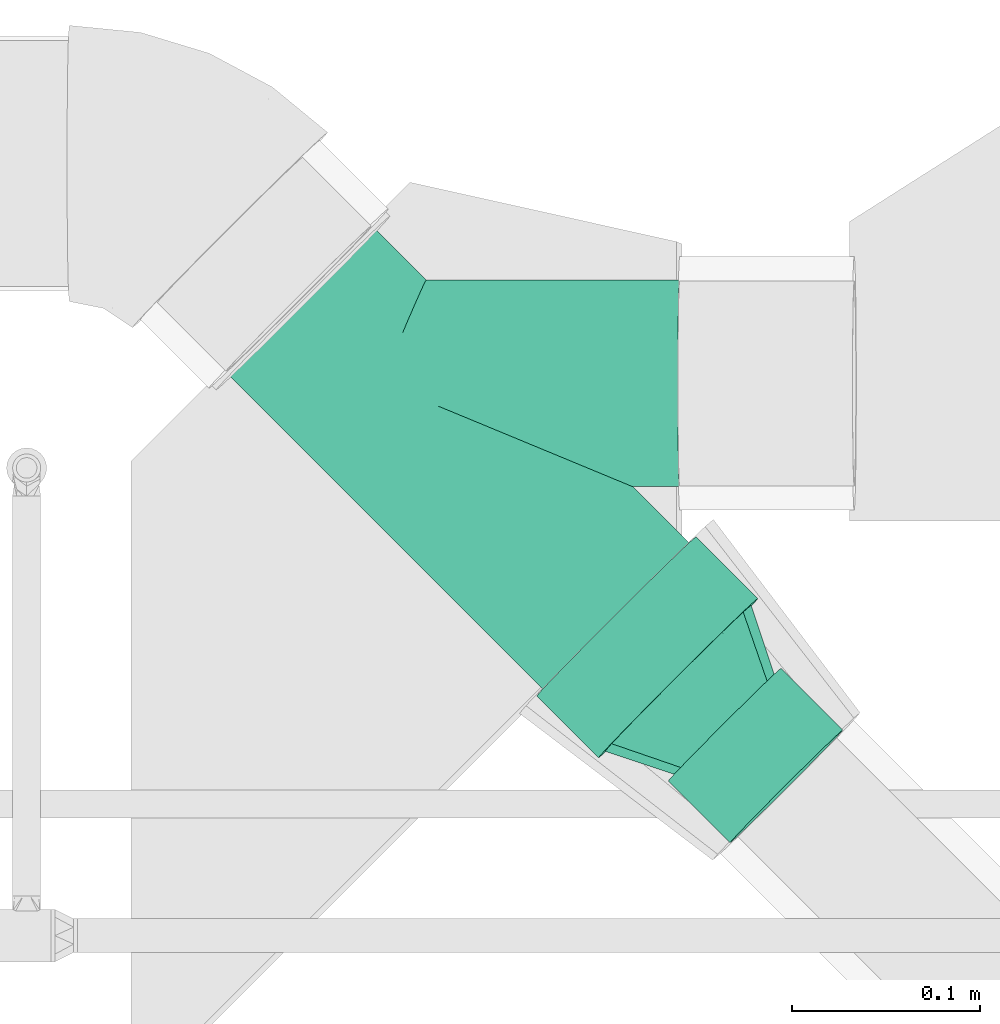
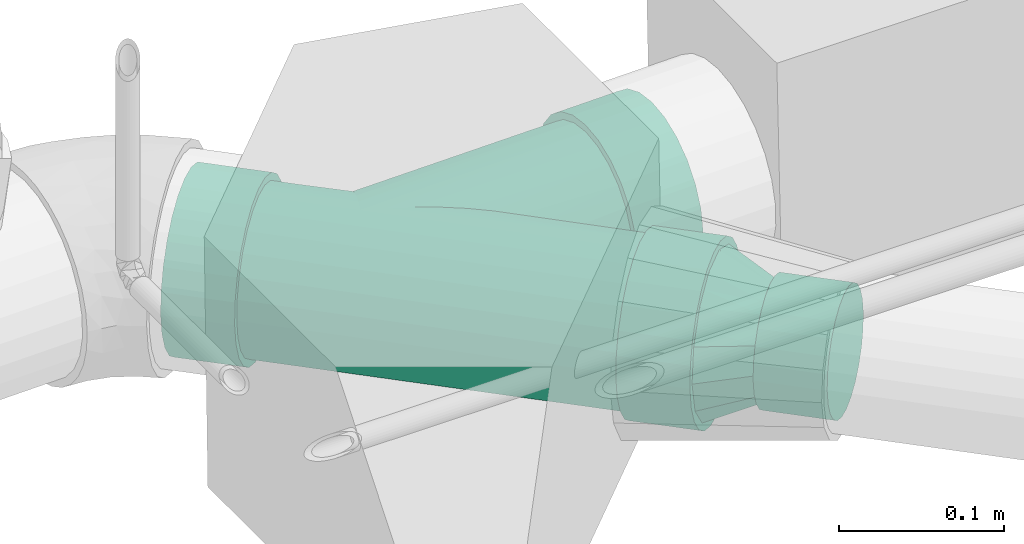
# One storey, part 126 of 156: 2 flow fittings.
"""IFC2X3 building model written with IfcOpenShell, lengths in millimetres."""

from ifc_helpers import new_model, entity, si_unit, converted_unit, derived_unit, direction, frame, origin_with_axes, place, context, subcontext, project, spatial, open_shell, surface_model, source, transform, mapped, type_object, element, save


model = new_model("IFC2X3")

# Units and contexts
model_context = context("Model", 3, precision=0.01, world=frame((0.0, 4.29681676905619e-09, 0.0)), true_north=direction((4.01073788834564e-13, 1.0)))
plan_context = context("Plan", 3, precision=0.01, world=frame((0.0, 4.29681676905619e-09, 0.0)), true_north=direction((4.01073788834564e-13, 1.0)))
body_context = subcontext(model_context, "Body", "Model", "MODEL_VIEW")
ifc_project = project(units=[converted_unit("PLANEANGLEUNIT", "DEGREE", entity("IfcPositiveLengthMeasure", 0.0174532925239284), si_unit("PLANEANGLEUNIT", "RADIAN"), dimensions=[0, 0, 0, 0, 0, 0, 0]), si_unit("AREAUNIT", "SQUARE_METRE"), si_unit("LENGTHUNIT", "METRE", prefix="MILLI"), si_unit("MASSUNIT", "GRAM", prefix="KILO"), si_unit("POWERUNIT", "WATT"), si_unit("PRESSUREUNIT", "PASCAL", prefix="KILO"), si_unit("FORCEUNIT", "NEWTON", prefix="KILO"), si_unit("ELECTRICVOLTAGEUNIT", "VOLT"), si_unit("ELECTRICCURRENTUNIT", "AMPERE"), si_unit("THERMODYNAMICTEMPERATUREUNIT", "DEGREE_CELSIUS"), si_unit("TIMEUNIT", "SECOND"), si_unit("VOLUMEUNIT", "CUBIC_METRE"), derived_unit("LINEARVELOCITYUNIT", [(si_unit("LENGTHUNIT", "METRE"), 1), (si_unit("TIMEUNIT", "SECOND"), -1)]), derived_unit("VOLUMETRICFLOWRATEUNIT", [(si_unit("VOLUMEUNIT", "CUBIC_METRE"), 1), (si_unit("TIMEUNIT", "SECOND"), -1)]), derived_unit("THERMALTRANSMITTANCEUNIT", [(si_unit("POWERUNIT", "WATT"), 1), (si_unit("THERMODYNAMICTEMPERATUREUNIT", "KELVIN"), -1), (si_unit("AREAUNIT", "SQUARE_METRE"), -1)]), derived_unit("SOUNDPRESSUREUNIT", [(si_unit("PRESSUREUNIT", "PASCAL"), 1)])], contexts=[model_context, plan_context])

# Site, building, storey
site_placement = place(None, frame((0.0, -4.29681676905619e-09, 0.0), z_axis=(0.0, 0.0, 1.0), x_axis=(1.0, 0.0, 0.0)))
site = spatial("IfcSite", under=ifc_project, at=site_placement, CompositionType="ELEMENT")
building_placement = place(site_placement, frame((0.0, 4.29681676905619e-09, 0.0), z_axis=(0.0, 0.0, 1.0), x_axis=(1.0, 0.0, 0.0)))
building = spatial("IfcBuilding", under=site, at=building_placement, Name="mc-building", CompositionType="ELEMENT")
storey_placement = place(building_placement, frame((0.0, 0.0, 205200.0), z_axis=(0.0, 0.0, 1.0), x_axis=(1.0, 0.0, 0.0)))
storey = spatial("IfcBuildingStorey", under=building, at=storey_placement, Name="Nivå D + 1,2 m", CompositionType="ELEMENT", Elevation=205200.0)

# Flow fittings
pipe_fitting_type_1 = type_object("IfcPipeFittingType", Name="magi_sewer_tee_wye_NOR", PredefinedType="JUNCTION")
shared_shape_1 = source(origin_with_axes(), body_context, "Body", "SurfaceModel", [
    surface_model("IfcShellBasedSurfaceModel", [(-110.38642, -30.0, -51.96152), (-110.38642, 42.42641, -42.42641), (-110.38642, -15.52914, -57.95555), (-110.38642, -51.96152, -30.0), (-110.38642, -42.42641, -42.42641), (-110.38642, -57.95555, -15.52914), (-110.38642, -60.0, 0.0), (-110.38642, 0.0, -60.0), (-110.38642, 30.0, -51.96152), (-110.38642, 15.52914, -57.95555), (-110.38642, -57.95555, 15.52914), (-110.38642, 51.96152, -30.0), (-110.38642, 60.0, 0.0), (-110.38642, 57.95555, -15.52914), (-110.38642, -51.96152, 30.0), (-110.38642, -42.42641, 42.42641), (-110.38642, -15.52914, 57.95555), (-110.38642, 0.0, 60.0), (-110.38642, -30.0, 51.96152), (-110.38642, 51.96152, 30.0), (-110.38642, 57.95555, 15.52914), (-110.38642, 30.0, 51.96152), (-110.38642, 42.42641, 42.42641), (-110.38642, 15.52914, 57.95555), (-63.88642, -42.42641, 42.42641), (-63.88642, 0.0, 60.0), (-63.88642, -15.52914, 57.95555), (-63.88642, -30.0, 51.96152), (-63.88642, -51.96152, 30.0), (-63.88642, -57.95555, 15.52914), (-63.88642, 60.0, 0.0), (-63.88642, 30.0, 51.96152), (-63.88642, 51.96152, 30.0), (-63.88642, 42.42641, 42.42641), (-63.88642, 15.52914, 57.95555), (-63.88642, 57.95555, 15.52914), (-63.88642, 51.96152, -30.0), (-63.88642, 42.42641, -42.42641), (-63.88642, -57.95555, -15.52914), (-63.88642, -42.42641, -42.42641), (-63.88642, -51.96152, -30.0), (-63.88642, -30.0, -51.96152), (-63.88642, -15.52914, -57.95555), (-63.88642, 57.95555, -15.52914), (-63.88642, 30.0, -51.96152), (-63.88642, 0.0, -60.0), (-63.88642, 15.52914, -57.95555), (-63.88642, -60.0, 0.0), (-63.88642, 0.0, 55.0), (-63.88642, 14.23505, 53.12592), (-63.88642, 27.5, 47.63139), (-63.88642, -47.63139, 27.5), (-63.88642, 27.5, -47.63139), (-63.88642, 47.63139, 27.5), (-63.88642, 38.89087, 38.89087), (-63.88642, -27.5, 47.63139), (-63.88642, -14.23505, 53.12592), (-63.88642, -38.89087, 38.89087), (-63.88642, -55.0, 0.0), (-63.88642, -53.12592, 14.23505), (-63.88642, -47.63139, -27.5), (-63.88642, 53.12592, -14.23505), (-63.88642, 53.12592, 14.23505), (-63.88642, 47.63139, -27.5), (-63.88642, -27.5, -47.63139), (-63.88642, 38.89087, -38.89087), (-63.88642, 0.0, -55.0), (-63.88642, 14.23505, -53.12592), (-63.88642, -38.89087, -38.89087), (-63.88642, -53.12592, -14.23505), (-63.88642, -14.23505, -53.12592), (-63.88642, 55.0, 0.0), (-21.8501, -52.75936, -14.72433), (-63.88642, -53.59444, -10.67629), (-20.40842, -49.27826, -23.92697), (-63.88642, -50.37866, -20.86752), (-63.88642, -49.00503, -24.18376), (-63.88642, -54.53148, -3.55876), (-63.88642, -54.06296, -7.11752), (-22.59041, -54.54691, -4.97138), (-22.40277, -54.09382, -9.94276), (-63.88642, -20.86752, -50.37866), (-7.52165, -18.16183, -51.91481), (-9.28617, -22.42246, -50.0043), (-19.51939, -47.13162, -28.34803), (-17.15243, -41.41635, -36.18958), (-63.88642, -43.26114, -33.19544), (-63.88642, -33.19544, -43.26114), (-11.0507, -26.68309, -48.09379), (-18.33591, -44.27398, -32.26881), (-15.72375, -37.96663, -39.50497), (-14.29506, -34.51692, -42.82035), (-21.29744, -51.42489, -19.50591), (-3.80652, -9.19124, -54.22657), (-63.88642, -7.11752, -54.06296), (-22.77806, -55.0, 0.0), (0.0, 0.0, -55.0), (-63.88642, -50.37866, 20.86752), (-21.29744, -51.42489, 19.50591), (-20.40842, -49.27826, 23.92697), (-22.59041, -54.54691, 4.97138), (-63.88642, -54.06296, 7.11752), (-63.88642, -54.53148, 3.55876), (-63.88642, -7.11752, 54.06296), (-3.80652, -9.19124, 54.22657), (0.0, 0.0, 55.0), (-7.52165, -18.16183, 51.91481), (-63.88642, -20.86752, 50.37866), (-11.0507, -26.68309, 48.09379), (-9.28617, -22.42246, 50.0043), (-19.51939, -47.13162, 28.34803), (-18.33591, -44.27398, 32.26881), (-63.88642, -43.26114, 33.19544), (-17.15243, -41.41635, 36.18958), (-63.88642, -49.00503, 24.18376), (-21.8501, -52.75936, 14.72433), (-22.40277, -54.09382, 9.94276), (-63.88642, -33.19544, 43.26114), (-63.88642, -53.59444, 10.67629), (-15.72375, -37.96663, 39.50497), (221.98298, 30.0, -51.96152), (221.98298, -42.42641, -42.42641), (221.98298, 15.52914, -57.95555), (221.98298, 51.96152, -30.0), (221.98298, 42.42641, -42.42641), (221.98298, 57.95555, -15.52914), (221.98298, 60.0, 0.0), (221.98298, 0.0, -60.0), (221.98298, -30.0, -51.96152), (221.98298, -15.52914, -57.95555), (221.98298, 57.95555, 15.52914), (221.98298, -51.96152, -30.0), (221.98298, -60.0, 0.0), (221.98298, -57.95555, -15.52914), (221.98298, 51.96152, 30.0), (221.98298, 42.42641, 42.42641), (221.98298, 15.52914, 57.95555), (221.98298, 0.0, 60.0), (221.98298, 30.0, 51.96152), (221.98298, -51.96152, 30.0), (221.98298, -57.95555, 15.52914), (221.98298, -30.0, 51.96152), (221.98298, -42.42641, 42.42641), (221.98298, -15.52914, 57.95555), (175.48298, 42.42641, 42.42641), (175.48298, 0.0, 60.0), (175.48298, 15.52914, 57.95555), (175.48298, 30.0, 51.96152), (175.48298, 51.96152, 30.0), (175.48298, 57.95555, 15.52914), (175.48298, -60.0, 0.0), (175.48298, -30.0, 51.96152), (175.48298, -51.96152, 30.0), (175.48298, -42.42641, 42.42641), (175.48298, -15.52914, 57.95555), (175.48298, -57.95555, 15.52914), (175.48298, -51.96152, -30.0), (175.48298, -42.42641, -42.42641), (175.48298, 57.95555, -15.52914), (175.48298, 42.42641, -42.42641), (175.48298, 51.96152, -30.0), (175.48298, 30.0, -51.96152), (175.48298, 15.52914, -57.95555), (175.48298, -57.95555, -15.52914), (175.48298, -30.0, -51.96152), (175.48298, 0.0, -60.0), (175.48298, -15.52914, -57.95555), (175.48298, 60.0, 0.0), (122.57608, -100.58895, -57.95555), (111.59657, -111.57098, -60.0), (152.57263, -70.58551, -15.52914), (132.80735, -90.35534, -51.96152), (148.3347, -74.82442, -30.0), (141.59313, -81.56753, -42.42641), (70.62051, -152.55644, -15.52914), (81.60002, -141.57442, -42.42641), (90.3858, -132.78661, -51.96152), (100.61707, -122.55299, -57.95555), (74.85844, -148.31754, -30.0), (69.17503, -154.00225, 0.0), (154.01811, -69.1397, 0.0), (152.57263, -70.58551, 15.52914), (132.80735, -90.35534, 51.96152), (148.3347, -74.82442, 30.0), (81.60002, -141.57442, 42.42641), (141.59313, -81.56753, 42.42641), (122.57608, -100.58895, 57.95555), (111.59657, -111.57098, 60.0), (74.85844, -148.31754, 30.0), (70.62051, -152.55644, 15.52914), (90.3858, -132.78661, 51.96152), (100.61707, -122.55299, 57.95555), (174.47736, -114.44423, -42.42641), (144.48081, -144.44767, -60.0), (155.46031, -133.46565, -57.95555), (165.69158, -123.23203, -51.96152), (181.21893, -107.70111, -30.0), (123.27004, -165.66331, -51.96152), (185.45687, -103.46221, 15.52914), (107.74268, -181.19423, -30.0), (114.48425, -174.45111, -42.42641), (133.50131, -155.42968, -57.95555), (103.50475, -185.43314, -15.52914), (103.50475, -185.43314, 15.52914), (102.05927, -186.87895, 0.0), (185.45687, -103.46221, -15.52914), (174.47736, -114.44423, 42.42641), (181.21893, -107.70111, 30.0), (165.69158, -123.23203, 51.96152), (155.46031, -133.46565, 57.95555), (107.74268, -181.19423, 30.0), (123.27004, -165.66331, 51.96152), (114.48425, -174.45111, 42.42641), (144.48081, -144.44767, 60.0), (133.50131, -155.42968, 57.95555), (186.90235, -102.01639, 0.0), (175.48298, 27.5, -47.63139), (175.48298, 0.0, -55.0), (175.48298, 14.23505, -53.12592), (175.48298, 47.63139, -27.5), (175.48298, 38.89087, -38.89087), (175.48298, -55.0, 0.0), (175.48298, -27.5, -47.63139), (175.48298, 53.12592, -14.23505), (175.48298, -14.23505, -53.12592), (175.48298, -47.63139, -27.5), (175.48298, -38.89087, -38.89087), (175.48298, -53.12592, -14.23505), (175.48298, -47.63139, 27.5), (175.48298, 55.0, 0.0), (175.48298, 47.63139, 27.5), (175.48298, 27.5, 47.63139), (175.48298, 38.89087, 38.89087), (175.48298, 14.23505, 53.12592), (175.48298, 0.0, 55.0), (175.48298, -53.12592, 14.23505), (175.48298, -27.5, 47.63139), (175.48298, -38.89087, 38.89087), (175.48298, -14.23505, 53.12592), (175.48298, 53.12592, 14.23505), (130.22674, -53.93294, -7.58616), (175.48298, -54.06296, -7.11752), (127.65021, -52.86587, -15.17233), (116.60906, -48.29322, -26.32043), (132.80329, -55.0, 0.0), (103.48158, -42.85652, -34.472), (175.48298, -43.26114, -33.19544), (74.97147, -31.04916, -45.39768), (60.20704, -24.93453, -49.02315), (89.4615, -37.05015, -40.64832), (30.2333, -12.52101, -53.55581), (15.13095, -6.26643, -54.64185), (45.27391, -18.75003, -51.70528), (30.2333, -12.52101, 53.55581), (60.20704, -24.93453, 49.02315), (-14.29505, -34.51692, 42.82035), (89.4615, -37.05015, 40.64832), (103.03528, -42.67169, 33.48438), (175.48298, -43.26114, 33.19544), (116.60906, -48.29322, 26.32043), (124.70617, -51.64661, 13.16021), (139.09342, -84.06782, -38.89087), (111.59657, -111.57098, -55.0), (121.66112, -101.50412, -53.12592), (131.03978, -92.12331, -47.63139), (145.27319, -77.88662, -27.5), (149.15796, -74.00097, -14.23505), (74.03518, -149.14098, -14.23505), (74.03518, -149.14098, 14.23505), (92.15337, -131.01864, -47.63139), (77.91995, -145.25532, -27.5), (84.09973, -139.07413, -38.89087), (101.53203, -121.63782, -53.12592), (72.71016, -150.46631, 0.0), (150.48298, -72.67564, 0.0), (149.15796, -74.00097, 14.23505), (145.27319, -77.88662, 27.5), (139.09342, -84.06782, 38.89087), (131.03978, -92.12331, 47.63139), (92.15337, -131.01864, 47.63139), (111.59657, -111.57098, 55.0), (121.66112, -101.50412, 53.12592), (77.91995, -145.25532, 27.5), (84.09973, -139.07413, 38.89087), (101.53203, -121.63782, 53.12592), (149.82047, -73.33831, -7.11752), (142.18331, -80.97722, -33.19544)], [open_shell([[[0, 1, 2]], [[3, 0, 4]], [[5, 6, 0]], [[5, 0, 3]], [[1, 0, 6]], [[7, 8, 9]], [[8, 7, 1]], [[2, 1, 7]], [[1, 10, 11]], [[11, 12, 13]], [[10, 1, 6]], [[10, 14, 15]], [[12, 10, 15]], [[16, 17, 15]], [[16, 15, 18]], [[19, 15, 17]], [[12, 19, 20]], [[12, 15, 19]], [[19, 21, 22]], [[19, 17, 21]], [[23, 21, 17]], [[10, 12, 11]], [[24, 25, 26]], [[24, 26, 27]], [[24, 28, 29]], [[25, 24, 30]], [[30, 24, 29]], [[31, 32, 33]], [[31, 34, 25]], [[32, 30, 35]], [[31, 25, 32]], [[25, 30, 32]], [[29, 36, 30]], [[37, 29, 38]], [[39, 38, 40]], [[41, 42, 38]], [[41, 38, 39]], [[37, 38, 42]], [[37, 36, 29]], [[43, 30, 36]], [[44, 45, 46]], [[45, 44, 37]], [[45, 37, 42]], [[47, 38, 29]], [[43, 13, 30]], [[36, 11, 43]], [[8, 37, 44]], [[36, 37, 1]], [[9, 44, 46]], [[43, 11, 13]], [[13, 12, 30]], [[9, 8, 44]], [[1, 37, 8]], [[1, 11, 36]], [[7, 9, 46]], [[46, 45, 7]], [[2, 42, 41]], [[39, 0, 41]], [[3, 40, 38]], [[39, 40, 4]], [[5, 38, 47]], [[42, 2, 45]], [[41, 0, 2]], [[45, 2, 7]], [[39, 4, 0]], [[40, 3, 4]], [[5, 3, 38]], [[47, 6, 5]], [[29, 10, 47]], [[28, 14, 29]], [[18, 24, 27]], [[28, 24, 15]], [[16, 27, 26]], [[29, 14, 10]], [[10, 6, 47]], [[18, 27, 16]], [[15, 24, 18]], [[15, 14, 28]], [[16, 25, 17]], [[16, 26, 25]], [[23, 34, 31]], [[33, 21, 31]], [[19, 32, 35]], [[33, 32, 22]], [[20, 35, 30]], [[34, 23, 25]], [[31, 21, 23]], [[25, 23, 17]], [[33, 22, 21]], [[32, 19, 22]], [[20, 19, 35]], [[30, 12, 20]], [[48, 49, 50]], [[51, 48, 50]], [[52, 51, 50]], [[53, 50, 54]], [[53, 52, 50]], [[48, 55, 56]], [[48, 57, 55]], [[51, 58, 59]], [[57, 48, 51]], [[51, 60, 58]], [[61, 53, 62]], [[61, 63, 53]], [[53, 63, 52]], [[51, 52, 64]], [[52, 63, 65]], [[66, 52, 67]], [[60, 64, 68]], [[69, 58, 60]], [[64, 66, 70]], [[60, 51, 64]], [[66, 64, 52]], [[62, 71, 61]], [[69, 72, 73]], [[74, 75, 76]], [[77, 78, 79]], [[80, 73, 72]], [[81, 82, 83]], [[84, 74, 60]], [[85, 86, 68]], [[87, 64, 88]], [[60, 86, 89]], [[90, 85, 68]], [[60, 74, 76]], [[88, 91, 87]], [[74, 92, 75]], [[93, 70, 94]], [[86, 85, 89]], [[95, 77, 79]], [[64, 83, 88]], [[80, 78, 73]], [[60, 89, 84]], [[78, 80, 79]], [[91, 68, 87]], [[83, 64, 81]], [[66, 96, 94]], [[68, 91, 90]], [[93, 82, 70]], [[93, 94, 96]], [[66, 67, 96]], [[92, 69, 75]], [[69, 92, 72]], [[77, 95, 58]], [[82, 81, 70]], [[97, 98, 99]], [[100, 101, 102]], [[103, 56, 104]], [[49, 48, 105]], [[104, 56, 106]], [[106, 56, 107]], [[108, 109, 55]], [[103, 105, 48]], [[55, 109, 107]], [[95, 102, 58]], [[105, 103, 104]], [[110, 111, 51]], [[112, 111, 113]], [[99, 114, 97]], [[100, 102, 95]], [[115, 98, 59]], [[116, 101, 100]], [[99, 51, 114]], [[59, 98, 97]], [[51, 111, 112]], [[51, 99, 110]], [[108, 55, 117]], [[116, 118, 101]], [[118, 115, 59]], [[113, 57, 112]], [[57, 113, 119]], [[115, 118, 116]], [[106, 107, 109]], [[120, 121, 122]], [[123, 120, 124]], [[125, 126, 120]], [[125, 120, 123]], [[121, 120, 126]], [[127, 128, 129]], [[128, 127, 121]], [[122, 121, 127]], [[121, 130, 131]], [[131, 132, 133]], [[130, 121, 126]], [[130, 134, 135]], [[132, 130, 135]], [[136, 137, 135]], [[136, 135, 138]], [[139, 135, 137]], [[132, 139, 140]], [[132, 135, 139]], [[139, 141, 142]], [[139, 137, 141]], [[143, 141, 137]], [[130, 132, 131]], [[144, 145, 146]], [[144, 146, 147]], [[144, 148, 149]], [[145, 144, 150]], [[150, 144, 149]], [[151, 152, 153]], [[151, 154, 145]], [[152, 150, 155]], [[151, 145, 152]], [[145, 150, 152]], [[149, 156, 150]], [[157, 149, 158]], [[159, 158, 160]], [[161, 162, 158]], [[161, 158, 159]], [[157, 158, 162]], [[157, 156, 149]], [[163, 150, 156]], [[164, 165, 166]], [[165, 164, 157]], [[165, 157, 162]], [[167, 158, 149]], [[163, 133, 150]], [[156, 131, 163]], [[128, 157, 164]], [[156, 157, 121]], [[129, 164, 166]], [[163, 131, 133]], [[133, 132, 150]], [[129, 128, 164]], [[121, 157, 128]], [[121, 131, 156]], [[127, 129, 166]], [[166, 165, 127]], [[122, 162, 161]], [[159, 120, 161]], [[123, 160, 158]], [[159, 160, 124]], [[125, 158, 167]], [[162, 122, 165]], [[161, 120, 122]], [[165, 122, 127]], [[159, 124, 120]], [[160, 123, 124]], [[125, 123, 158]], [[167, 126, 125]], [[149, 130, 167]], [[148, 134, 149]], [[138, 144, 147]], [[148, 144, 135]], [[136, 147, 146]], [[149, 134, 130]], [[130, 126, 167]], [[138, 147, 136]], [[135, 144, 138]], [[135, 134, 148]], [[136, 145, 137]], [[136, 146, 145]], [[143, 154, 151]], [[153, 141, 151]], [[139, 152, 155]], [[153, 152, 142]], [[140, 155, 150]], [[154, 143, 145]], [[151, 141, 143]], [[145, 143, 137]], [[153, 142, 141]], [[152, 139, 142]], [[140, 139, 155]], [[150, 132, 140]], [[168, 169, 170]], [[171, 168, 170]], [[170, 172, 173]], [[171, 170, 173]], [[174, 170, 169]], [[175, 174, 176]], [[177, 176, 174]], [[178, 174, 175]], [[174, 169, 177]], [[174, 179, 170]], [[179, 180, 170]], [[181, 180, 182]], [[183, 181, 182]], [[184, 182, 180]], [[185, 183, 182]], [[186, 182, 187]], [[188, 184, 189]], [[184, 180, 189]], [[190, 191, 184]], [[184, 191, 182]], [[191, 187, 182]], [[179, 189, 180]], [[192, 193, 194]], [[192, 194, 195]], [[193, 196, 197]], [[196, 193, 192]], [[198, 197, 196]], [[197, 199, 200]], [[197, 201, 193]], [[197, 202, 199]], [[197, 203, 202]], [[202, 203, 204]], [[205, 198, 196]], [[203, 197, 198]], [[206, 198, 207]], [[198, 208, 203]], [[208, 198, 206]], [[209, 203, 208]], [[210, 211, 212]], [[211, 210, 203]], [[211, 213, 214]], [[211, 203, 209]], [[209, 213, 211]], [[198, 205, 215]], [[203, 179, 204]], [[210, 189, 203]], [[184, 212, 211]], [[210, 212, 188]], [[190, 211, 214]], [[210, 188, 189]], [[189, 179, 203]], [[191, 213, 187]], [[191, 190, 214]], [[184, 211, 190]], [[184, 188, 212]], [[213, 191, 214]], [[182, 209, 208]], [[206, 185, 208]], [[181, 207, 198]], [[206, 207, 183]], [[180, 198, 215]], [[209, 186, 187]], [[209, 182, 186]], [[208, 185, 182]], [[206, 183, 185]], [[181, 183, 207]], [[198, 180, 181]], [[209, 187, 213]], [[205, 180, 215]], [[196, 170, 205]], [[173, 192, 195]], [[196, 192, 172]], [[171, 195, 194]], [[196, 172, 170]], [[170, 180, 205]], [[168, 193, 169]], [[168, 171, 194]], [[173, 195, 171]], [[173, 172, 192]], [[193, 168, 194]], [[176, 201, 197]], [[200, 175, 197]], [[174, 199, 202]], [[200, 199, 178]], [[179, 202, 204]], [[177, 169, 201]], [[177, 201, 176]], [[197, 175, 176]], [[200, 178, 175]], [[174, 178, 199]], [[202, 179, 174]], [[201, 169, 193]], [[216, 217, 218]], [[219, 216, 220]], [[221, 222, 216]], [[223, 216, 219]], [[216, 223, 221]], [[217, 222, 224]], [[217, 216, 222]], [[222, 225, 226]], [[225, 222, 221]], [[221, 227, 225]], [[228, 223, 229]], [[228, 229, 230]], [[231, 230, 232]], [[231, 233, 234]], [[230, 231, 228]], [[234, 228, 231]], [[221, 228, 235]], [[223, 228, 221]], [[234, 236, 237]], [[237, 228, 234]], [[236, 234, 238]], [[229, 239, 230]], [[240, 227, 241]], [[242, 243, 225]], [[240, 242, 227]], [[241, 244, 240]], [[227, 242, 225]], [[245, 246, 243]], [[222, 247, 248]], [[249, 247, 222]], [[249, 226, 245]], [[226, 249, 222]], [[246, 225, 243]], [[245, 226, 246]], [[220, 65, 63]], [[219, 63, 61]], [[218, 67, 52]], [[216, 52, 65]], [[218, 96, 67]], [[223, 61, 71]], [[250, 251, 224]], [[252, 250, 224]], [[252, 224, 248]], [[224, 251, 217]], [[248, 224, 222]], [[96, 217, 251]], [[244, 241, 221]], [[218, 217, 96]], [[216, 218, 52]], [[216, 65, 220]], [[219, 220, 63]], [[223, 219, 61]], [[71, 229, 223]], [[54, 230, 53]], [[53, 230, 62]], [[239, 71, 62]], [[232, 54, 50]], [[50, 49, 231]], [[232, 230, 54]], [[231, 232, 50]], [[239, 62, 230]], [[229, 71, 239]], [[105, 253, 234]], [[105, 234, 233]], [[234, 253, 238]], [[238, 253, 254]], [[233, 231, 49]], [[105, 233, 49]], [[108, 117, 255]], [[117, 57, 255]], [[237, 256, 257]], [[255, 57, 119]], [[257, 228, 258]], [[235, 259, 260]], [[254, 256, 236]], [[236, 256, 237]], [[254, 236, 238]], [[237, 257, 258]], [[228, 257, 259]], [[259, 235, 228]], [[260, 221, 235]], [[260, 244, 221]], [[261, 262, 263]], [[261, 263, 264]], [[261, 265, 266]], [[262, 261, 267]], [[261, 268, 267]], [[269, 270, 271]], [[269, 272, 262]], [[269, 267, 270]], [[262, 267, 269]], [[267, 268, 273]], [[261, 266, 268]], [[274, 275, 276]], [[274, 276, 277]], [[274, 278, 279]], [[278, 274, 277]], [[280, 278, 281]], [[274, 282, 268]], [[274, 283, 282]], [[279, 280, 284]], [[279, 283, 274]], [[280, 279, 278]], [[274, 268, 266]], [[116, 95, 273]], [[268, 116, 273]], [[283, 279, 255]], [[113, 282, 283]], [[98, 268, 282]], [[106, 279, 284]], [[98, 116, 268]], [[110, 98, 282]], [[255, 113, 283]], [[106, 108, 279]], [[255, 279, 108]], [[110, 282, 113]], [[274, 260, 275]], [[284, 104, 106]], [[253, 280, 281]], [[278, 254, 281]], [[276, 275, 259]], [[259, 277, 276]], [[256, 278, 277]], [[260, 274, 244]], [[280, 105, 104]], [[280, 253, 105]], [[260, 259, 275]], [[253, 281, 254]], [[259, 256, 277]], [[278, 256, 254]], [[280, 104, 284]], [[266, 240, 285]], [[243, 286, 245]], [[274, 285, 244]], [[266, 265, 242]], [[261, 264, 249]], [[245, 286, 261]], [[242, 265, 243]], [[248, 264, 263]], [[243, 265, 286]], [[247, 249, 264]], [[245, 261, 249]], [[252, 248, 263]], [[262, 251, 250]], [[252, 263, 250]], [[247, 264, 248]], [[266, 242, 240]], [[250, 263, 262]], [[269, 82, 272]], [[272, 93, 262]], [[91, 269, 271]], [[80, 267, 273]], [[271, 270, 85]], [[267, 92, 270]], [[273, 95, 80]], [[88, 82, 269]], [[93, 96, 262]], [[82, 93, 272]], [[244, 285, 240]], [[80, 92, 267]], [[85, 91, 271]], [[84, 85, 270]], [[92, 84, 270]], [[88, 269, 91]], [[262, 96, 251]]])]),
])
flow_fitting_1_placement = place(storey_placement, frame((327842.48114, 462607.66, 4217.16278000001), z_axis=(0.0166640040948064, -0.00683400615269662, -0.999837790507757), x_axis=(0.707009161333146, -0.707009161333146, 0.016616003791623)))
element("IfcFlowFitting", 1, at=flow_fitting_1_placement, inside=storey, type_object=pipe_fitting_type_1, Name="magi_sewer_tee_wye_NOR", context=body_context, shape_type="MappedRepresentation", body=[
    mapped(shared_shape_1, transform((0.0, 0.0, 0.0), scale=1.0)),
])
pipe_fitting_type_2 = type_object("IfcPipeFittingType", Name="magi_sewer_transition_NOR", PredefinedType="TRANSITION")
shared_shape_2 = source(origin_with_axes(), body_context, "Body", "SurfaceModel", [
    surface_model("IfcShellBasedSurfaceModel", [(81.5, -37.5, 0.0), (81.5, 0.0, 37.5), (81.5, -18.75, 32.47595), (81.5, 18.75, 32.47595), (81.5, 32.47595, -18.75), (81.5, 32.47595, 18.75), (81.5, 37.5, 0.0), (81.5, -32.47595, 18.75), (81.5, -32.47595, -18.75), (81.5, -18.75, -32.47595), (81.5, 0.0, -37.5), (81.5, 18.75, -32.47595), (46.5, 12.23865, 53.62104), (46.5, 55.0, 0.0), (46.5, -12.23865, 53.62104), (46.5, 34.29194, 43.00073), (46.5, -49.55329, 23.86361), (46.5, -34.29194, 43.00073), (46.5, -49.55329, -23.86361), (46.5, -55.0, 0.0), (46.5, 49.55329, 23.86361), (46.5, 49.55329, -23.86361), (46.5, 34.29194, -43.00073), (46.5, -34.29194, -43.00073), (46.5, 12.23865, -53.62104), (46.5, -12.23865, -53.62104), (81.5, -9.375, -34.98798), (46.5, -52.27664, -11.9318), (81.5, -34.98798, -9.375), (46.5, 41.92261, -33.43217), (81.5, 34.98798, -9.375), (46.5, 23.2653, -48.31088), (81.5, 25.61298, -25.61298), (46.5, 0.0, -53.62104), (46.5, -23.2653, -48.31088), (46.5, 52.27664, -11.9318), (81.5, -25.61298, -25.61298), (46.5, -41.92261, -33.43217), (81.5, 9.375, -34.98798), (81.5, 9.375, 34.98798), (46.5, 52.27664, 11.9318), (81.5, 34.98798, 9.375), (46.5, -41.92261, 33.43217), (81.5, -34.98798, 9.375), (46.5, -23.2653, 48.31088), (81.5, -25.61298, 25.61298), (46.5, 0.0, 53.62104), (46.5, 23.2653, 48.31088), (46.5, -52.27664, 11.9318), (81.5, 25.61298, 25.61298), (46.5, 41.92261, 33.43217), (81.5, -9.375, 34.98798), (81.5, 10.99981, 41.05185), (81.5, -10.99981, 41.05185), (81.5, 0.0, 42.5), (81.5, 41.05185, 10.99981), (81.5, 21.25, 36.80608), (81.5, 30.05204, 30.05204), (81.5, 36.80608, 21.25), (81.5, -41.05185, -10.99981), (81.5, -42.5, 0.0), (81.5, -30.05204, 30.05204), (81.5, -21.25, 36.80608), (81.5, -36.80608, 21.25), (81.5, -41.05185, 10.99981), (81.5, 42.5, 0.0), (81.5, 41.05185, -10.99981), (81.5, 36.80608, -21.25), (81.5, 21.25, -36.80608), (81.5, 30.05204, -30.05204), (81.5, -10.99981, -41.05185), (81.5, 10.99981, -41.05185), (81.5, -30.05204, -30.05204), (81.5, -36.80608, -21.25), (81.5, -21.25, -36.80608), (81.5, 0.0, -42.5), (128.0, 21.25, -36.80608), (128.0, -10.99981, -41.05185), (128.0, 10.99981, -41.05185), (128.0, 36.80608, -21.25), (128.0, 30.05204, -30.05204), (128.0, 41.05185, -10.99981), (128.0, 42.5, 0.0), (128.0, -30.05204, -30.05204), (128.0, -21.25, -36.80608), (128.0, 0.0, -42.5), (128.0, -41.05185, -10.99981), (128.0, -36.80608, -21.25), (128.0, 41.05185, 10.99981), (128.0, 36.80608, 21.25), (128.0, 30.05204, 30.05204), (128.0, 10.99981, 41.05185), (128.0, -10.99981, 41.05185), (128.0, 21.25, 36.80608), (128.0, 0.0, 42.5), (128.0, -36.80608, 21.25), (128.0, -41.05185, 10.99981), (128.0, -42.5, 0.0), (128.0, -30.05204, 30.05204), (128.0, -21.25, 36.80608), (46.5, 30.0, -51.96152), (46.5, -42.42641, -42.42641), (46.5, 15.52914, -57.95555), (46.5, 51.96152, -30.0), (46.5, 42.42641, -42.42641), (46.5, 57.95555, -15.52914), (46.5, -60.0, 0.0), (46.5, 0.0, -60.0), (46.5, -30.0, -51.96152), (46.5, -15.52914, -57.95555), (46.5, -51.96152, -30.0), (46.5, -57.95555, -15.52914), (46.5, 60.0, 0.0), (46.5, 57.95555, 15.52914), (46.5, 51.96152, 30.0), (46.5, 42.42641, 42.42641), (46.5, 15.52914, 57.95555), (46.5, 0.0, 60.0), (46.5, 30.0, 51.96152), (46.5, -51.96152, 30.0), (46.5, -57.95555, 15.52914), (46.5, -30.0, 51.96152), (46.5, -42.42641, 42.42641), (46.5, -15.52914, 57.95555), (0.0, 42.42641, 42.42641), (0.0, 0.0, 60.0), (0.0, 15.52914, 57.95555), (0.0, 30.0, 51.96152), (0.0, 51.96152, 30.0), (0.0, 57.95555, 15.52914), (0.0, -51.96152, 30.0), (0.0, -60.0, 0.0), (0.0, -42.42641, 42.42641), (0.0, -30.0, 51.96152), (0.0, -15.52914, 57.95555), (0.0, -57.95555, 15.52914), (0.0, -51.96152, -30.0), (0.0, 57.95555, -15.52914), (0.0, 30.0, -51.96152), (0.0, 51.96152, -30.0), (0.0, -42.42641, -42.42641), (0.0, 42.42641, -42.42641), (0.0, 15.52914, -57.95555), (0.0, -57.95555, -15.52914), (0.0, -30.0, -51.96152), (0.0, 0.0, -60.0), (0.0, -15.52914, -57.95555), (0.0, 60.0, 0.0)], [open_shell([[[0, 1, 2]], [[3, 1, 4]], [[3, 4, 5]], [[6, 5, 4]], [[2, 7, 0]], [[0, 8, 9]], [[0, 9, 4]], [[4, 10, 11]], [[10, 4, 9]], [[0, 4, 1]], [[12, 13, 14]], [[15, 13, 12]], [[16, 17, 18]], [[18, 19, 16]], [[14, 18, 17]], [[15, 20, 13]], [[13, 21, 22]], [[13, 22, 18]], [[18, 22, 23]], [[24, 25, 23]], [[22, 24, 23]], [[13, 18, 14]], [[25, 10, 26]], [[27, 18, 28]], [[29, 21, 4]], [[4, 21, 30]], [[31, 22, 11]], [[0, 27, 28]], [[4, 32, 29]], [[10, 33, 24]], [[9, 23, 34]], [[6, 30, 35]], [[30, 21, 35]], [[26, 9, 34]], [[23, 9, 36]], [[32, 22, 29]], [[27, 0, 19]], [[37, 8, 18]], [[6, 35, 13]], [[25, 26, 34]], [[31, 38, 24]], [[8, 37, 36]], [[18, 8, 28]], [[32, 11, 22]], [[38, 10, 24]], [[10, 25, 33]], [[37, 23, 36]], [[38, 31, 11]], [[12, 1, 39]], [[40, 20, 41]], [[42, 16, 7]], [[7, 16, 43]], [[44, 17, 2]], [[6, 40, 41]], [[7, 45, 42]], [[1, 46, 14]], [[3, 15, 47]], [[0, 43, 48]], [[43, 16, 48]], [[39, 3, 47]], [[15, 3, 49]], [[45, 17, 42]], [[40, 6, 13]], [[50, 5, 20]], [[0, 48, 19]], [[12, 39, 47]], [[44, 51, 14]], [[5, 50, 49]], [[20, 5, 41]], [[45, 2, 17]], [[51, 1, 14]], [[1, 12, 46]], [[50, 15, 49]], [[51, 44, 2]], [[52, 53, 54]], [[55, 52, 56]], [[57, 58, 55]], [[57, 55, 56]], [[59, 60, 52]], [[53, 61, 62]], [[61, 53, 63]], [[53, 64, 63]], [[64, 53, 60]], [[53, 52, 60]], [[52, 55, 59]], [[65, 66, 67]], [[65, 67, 68]], [[68, 59, 55]], [[68, 67, 69]], [[70, 68, 71]], [[59, 72, 73]], [[72, 59, 74]], [[59, 70, 74]], [[59, 68, 70]], [[71, 75, 70]], [[68, 55, 65]], [[76, 77, 78]], [[79, 76, 80]], [[79, 81, 82]], [[79, 82, 76]], [[77, 76, 82]], [[77, 83, 84]], [[77, 85, 78]], [[83, 86, 87]], [[86, 83, 77]], [[82, 86, 77]], [[82, 88, 86]], [[88, 89, 90]], [[88, 90, 91]], [[88, 91, 92]], [[91, 90, 93]], [[92, 91, 94]], [[95, 96, 86]], [[97, 86, 96]], [[98, 92, 99]], [[98, 95, 88]], [[98, 88, 92]], [[86, 88, 95]], [[86, 60, 59]], [[73, 87, 59]], [[84, 74, 70]], [[77, 70, 75]], [[59, 87, 86]], [[86, 97, 60]], [[83, 72, 84]], [[83, 87, 73]], [[84, 72, 74]], [[70, 77, 84]], [[83, 73, 72]], [[75, 85, 77]], [[78, 71, 68]], [[69, 76, 68]], [[79, 67, 66]], [[69, 67, 80]], [[81, 66, 65]], [[71, 78, 85]], [[68, 76, 78]], [[69, 80, 76]], [[67, 79, 80]], [[81, 79, 66]], [[65, 82, 81]], [[71, 85, 75]], [[55, 88, 65]], [[58, 89, 55]], [[58, 57, 90]], [[57, 56, 93]], [[55, 89, 88]], [[88, 82, 65]], [[94, 91, 52]], [[91, 93, 56]], [[90, 57, 93]], [[90, 89, 58]], [[52, 91, 56]], [[52, 54, 94]], [[92, 53, 62]], [[61, 99, 62]], [[95, 63, 64]], [[61, 63, 98]], [[96, 64, 60]], [[53, 92, 94]], [[62, 99, 92]], [[61, 98, 99]], [[63, 95, 98]], [[96, 95, 64]], [[60, 97, 96]], [[53, 94, 54]], [[100, 101, 102]], [[103, 100, 104]], [[100, 105, 106]], [[105, 100, 103]], [[106, 101, 100]], [[107, 108, 109]], [[108, 107, 101]], [[102, 101, 107]], [[101, 106, 110]], [[110, 106, 111]], [[105, 112, 113]], [[113, 114, 115]], [[106, 113, 115]], [[116, 117, 115]], [[116, 115, 118]], [[119, 115, 117]], [[106, 119, 120]], [[106, 115, 119]], [[119, 121, 122]], [[119, 117, 121]], [[123, 121, 117]], [[113, 106, 105]], [[124, 125, 126]], [[124, 126, 127]], [[124, 128, 129]], [[125, 124, 130]], [[131, 124, 129]], [[125, 132, 133]], [[133, 134, 125]], [[130, 131, 135]], [[125, 130, 132]], [[124, 131, 130]], [[129, 136, 131]], [[129, 137, 138]], [[138, 137, 139]], [[138, 140, 129]], [[138, 139, 141]], [[142, 140, 138]], [[140, 136, 129]], [[143, 131, 136]], [[144, 145, 146]], [[145, 144, 140]], [[145, 140, 142]], [[147, 137, 129]], [[143, 111, 131]], [[136, 110, 143]], [[108, 140, 144]], [[136, 140, 101]], [[109, 144, 146]], [[143, 110, 111]], [[111, 106, 131]], [[109, 108, 144]], [[101, 140, 108]], [[101, 110, 136]], [[107, 109, 146]], [[146, 145, 107]], [[102, 142, 138]], [[141, 100, 138]], [[103, 139, 137]], [[141, 139, 104]], [[105, 137, 147]], [[142, 102, 145]], [[138, 100, 102]], [[145, 102, 107]], [[141, 104, 100]], [[139, 103, 104]], [[105, 103, 137]], [[147, 112, 105]], [[129, 113, 147]], [[128, 114, 129]], [[118, 124, 127]], [[128, 124, 115]], [[116, 127, 126]], [[129, 114, 113]], [[113, 112, 147]], [[118, 127, 116]], [[115, 124, 118]], [[115, 114, 128]], [[116, 125, 117]], [[116, 126, 125]], [[123, 134, 133]], [[132, 121, 133]], [[119, 130, 135]], [[132, 130, 122]], [[120, 135, 131]], [[134, 123, 125]], [[133, 121, 123]], [[125, 123, 117]], [[132, 122, 121]], [[130, 119, 122]], [[120, 119, 135]], [[131, 106, 120]]])]),
])
flow_fitting_2_placement = place(storey_placement, frame((327966.54922, 462483.59192, 4220.07855999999), z_axis=(-0.0166640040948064, 0.00683400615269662, 0.999837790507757), x_axis=(0.707009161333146, -0.707009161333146, 0.016616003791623)))
element("IfcFlowFitting", 2, at=flow_fitting_2_placement, inside=storey, type_object=pipe_fitting_type_2, Name="magi_sewer_transition_NOR", context=body_context, shape_type="MappedRepresentation", body=[
    mapped(shared_shape_2, transform((0.0, 0.0, 0.0), scale=1.0)),
])

save(model, "model.ifc")
